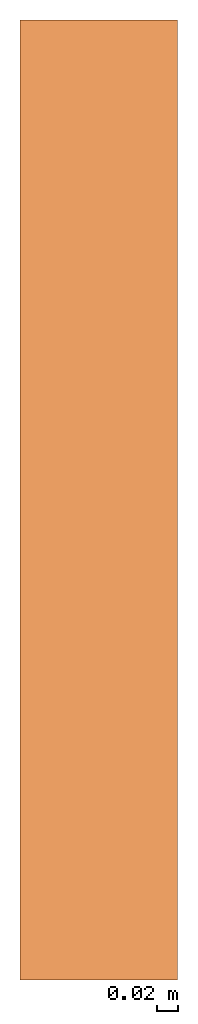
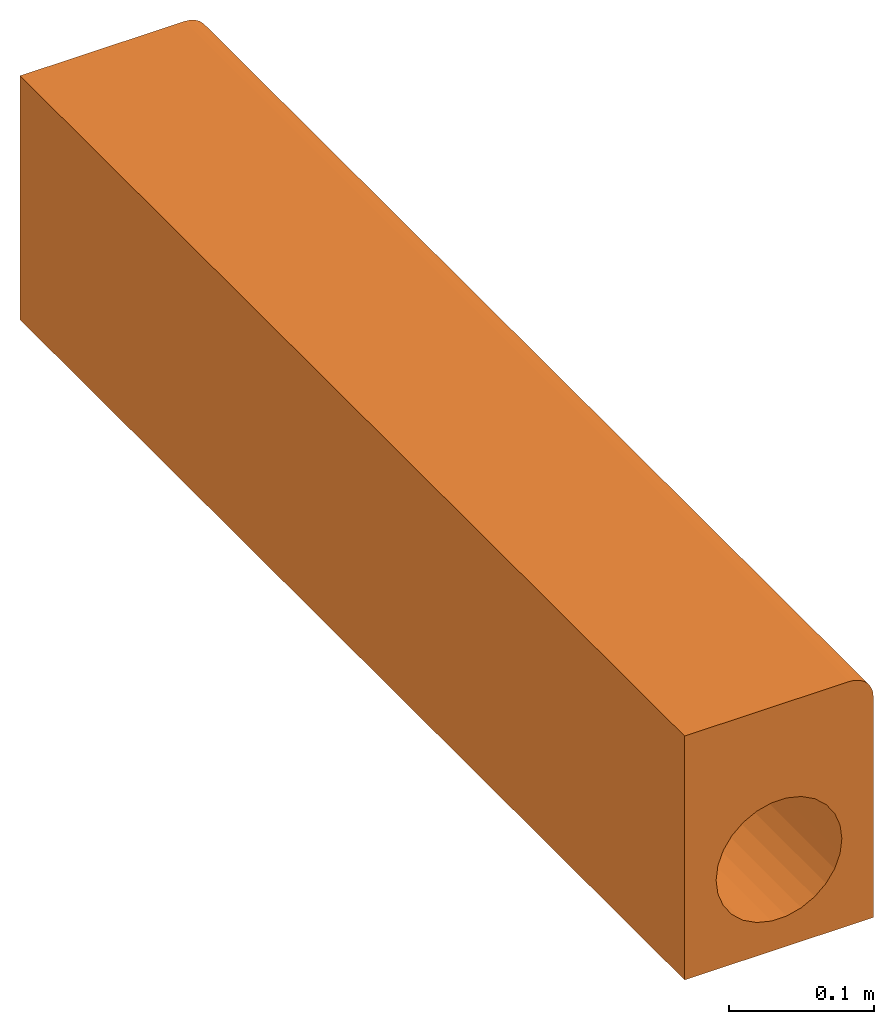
# One storey: 1 proxy.
"""IFC2X3 building model written with IfcOpenShell, lengths in millimetres."""

from ifc_helpers import new_model, entity, si_unit, converted_unit, direction, frame, frame_2d, origin, place, context, subcontext, project, spatial, polyline, circle_curve, parameter, trimmed, segment, composite_curve, outline, extrude, source, transform, mapped, material, element, save


model = new_model("IFC2X3")

# Units and contexts
model_context = context("Model", 3, precision=1e-06, world=origin(), true_north=direction((2.0, 6.12303176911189e-17, 1.0)))
context_of_model = context(None, 3, precision=1e-06, world=origin(), true_north=direction((2.0, 6.12303176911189e-17, 1.0)))
body_context = subcontext(model_context, "Body", "Model", "MODEL_VIEW")
ifc_project = project(units=[si_unit("LENGTHUNIT", "METRE", prefix="MILLI"), si_unit("AREAUNIT", "SQUARE_METRE", prefix="MILLI"), si_unit("VOLUMEUNIT", "CUBIC_METRE", prefix="MILLI"), converted_unit("PLANEANGLEUNIT", "DEGREE", entity("IfcRatioMeasure", 0.0174532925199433), si_unit("PLANEANGLEUNIT", "RADIAN"), dimensions=[0, 0, 0, 0, 0, 0, 0]), si_unit("TIMEUNIT", "SECOND")], contexts=[model_context, context_of_model])

# Site, building, storey
site_placement = place(None, origin())
site = spatial("IfcSite", under=ifc_project, at=site_placement, Name="Default", CompositionType="ELEMENT")
building_placement = place(site_placement, origin())
building = spatial("IfcBuilding", under=site, at=building_placement, CompositionType="ELEMENT")
storey_placement = place(building_placement, frame((0.0, 0.0, -300.0)))
storey = spatial("IfcBuildingStorey", under=building, at=storey_placement, Name="T.O. Fnd. Wall", CompositionType="ELEMENT", Elevation=-300.0)

# Proxy
ifc_material = material(Name="ACO Polymer Concrete.")
shared_shape = source(origin(), body_context, "Body", "SweptSolid", [
    extrude(outline(composite_curve([segment(trimmed(circle_curve(frame_2d((44.7999999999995, -66.8013178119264), x_axis=(1.0, 0.0)), 19.0), [parameter(270.000000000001)], [parameter(0.0)], True, "PARAMETER"), True, "CONTINUOUS"), segment(polyline([(63.7999999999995, -66.8013178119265), (63.8000000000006, 119.201976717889)]), True, "CONTINUOUS"), segment(polyline([(63.8000000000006, 119.201976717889), (-86.2, 119.20197671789)]), True, "CONTINUOUS"), segment(polyline([(-86.2, 119.20197671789), (-86.1999999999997, -85.8013178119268)]), True, "CONTINUOUS"), segment(polyline([(-86.1999999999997, -85.8013178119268), (44.7999999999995, -85.8013178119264)]), True, "CONTINUOUS")], self_intersect=False), holes=[composite_curve([segment(trimmed(circle_curve(frame_2d((-11.2000000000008, 44.2019767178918), x_axis=(1.0, 0.0)), 50.0000000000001), [parameter(180.0)], [parameter(360.0)], True, "PARAMETER"), False, "CONTINUOUS"), segment(trimmed(circle_curve(frame_2d((-11.2000000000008, 44.2019767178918), x_axis=(1.0, 0.0)), 50.0000000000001), [parameter(0.0)], [parameter(180.0)], True, "PARAMETER"), False, "CONTINUOUS")], self_intersect=False)]), frame((11.2000000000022, 0.0, -60.8013178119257), z_axis=(0.0, 1.0, 0.0), x_axis=(1.0, 0.0, 0.0)), (0.0, 0.0, 1.0), 915.0),
])
proxy_placement = place(storey_placement, frame((-4264.21056397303, -6896.5502196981, 300.0)))
element("IfcBuildingElementProxy", 1, at=proxy_placement, inside=storey, material=ifc_material, Name="Civil-Drainage-Channel-ACO-KerbDrain-HB305 - PART 1:7965 - Centre stone - 915mm LG:7965 - Centre stone - 915mm LG", ObjectType="7965 - Centre stone - 915mm LG", CompositionType="ELEMENT", context=body_context, shape_type="MappedRepresentation", body=[
    mapped(shared_shape, transform((0.0, 0.0, 0.0), scale=1.0)),
])

save(model, "model.ifc")
